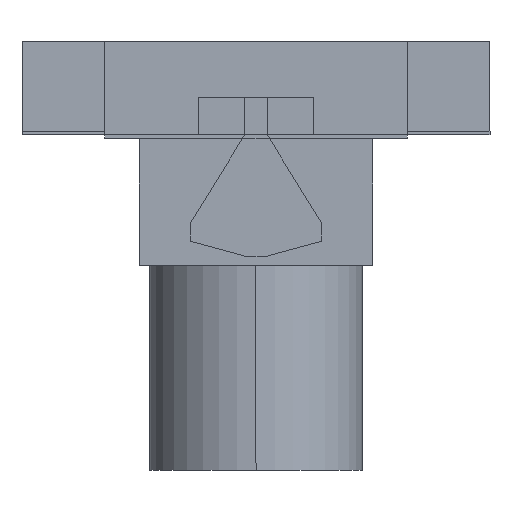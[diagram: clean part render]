
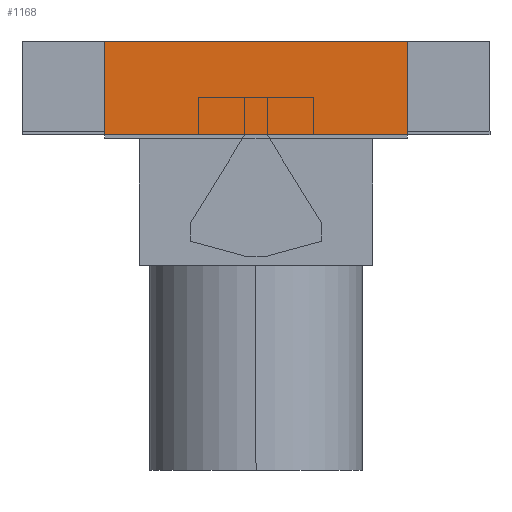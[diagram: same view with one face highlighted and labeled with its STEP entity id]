
A CAD part, left-side view. The second image highlights one B-rep face of the part: STEP entity #1168.
In plain terms, the highlighted planar face has unit normal (-1, 0, 0).
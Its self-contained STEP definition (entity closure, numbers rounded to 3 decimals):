
#96=FACE_OUTER_BOUND('',#169,.T.);
#169=EDGE_LOOP('',(#980,#981,#982,#983));
#303=LINE('',#1851,#452);
#305=LINE('',#1855,#454);
#306=LINE('',#1857,#455);
#307=LINE('',#1858,#456);
#452=VECTOR('',#1526,304.8);
#454=VECTOR('',#1530,304.8);
#455=VECTOR('',#1531,304.8);
#456=VECTOR('',#1532,304.8);
#565=VERTEX_POINT('',#1848);
#566=VERTEX_POINT('',#1850);
#567=VERTEX_POINT('',#1854);
#568=VERTEX_POINT('',#1856);
#707=EDGE_CURVE('',#566,#565,#303,.T.);
#709=EDGE_CURVE('',#567,#565,#305,.T.);
#710=EDGE_CURVE('',#568,#567,#306,.T.);
#711=EDGE_CURVE('',#566,#568,#307,.T.);
#980=ORIENTED_EDGE('',*,*,#709,.F.);
#981=ORIENTED_EDGE('',*,*,#710,.F.);
#982=ORIENTED_EDGE('',*,*,#711,.F.);
#983=ORIENTED_EDGE('',*,*,#707,.T.);
#1097=PLANE('',#1272);
#1168=ADVANCED_FACE('',(#96),#1097,.T.);
#1272=AXIS2_PLACEMENT_3D('',#1853,#1528,#1529);
#1526=DIRECTION('',(0.,0.,1.));
#1528=DIRECTION('center_axis',(-1.,0.,0.));
#1529=DIRECTION('ref_axis',(0.,0.,-1.));
#1530=DIRECTION('',(0.,-1.,0.));
#1531=DIRECTION('',(0.,0.,1.));
#1532=DIRECTION('',(0.,1.,0.));
#1848=CARTESIAN_POINT('',(-1000.,-81.,30.));
#1850=CARTESIAN_POINT('',(-1000.,-81.,-20.));
#1851=CARTESIAN_POINT('',(-1000.,-81.,-20.));
#1853=CARTESIAN_POINT('Origin',(-1000.,81.,30.));
#1854=CARTESIAN_POINT('',(-1000.,81.,30.));
#1855=CARTESIAN_POINT('',(-1000.,81.,30.));
#1856=CARTESIAN_POINT('',(-1000.,81.,-20.));
#1857=CARTESIAN_POINT('',(-1000.,81.,-20.));
#1858=CARTESIAN_POINT('',(-1000.,-81.,-20.));
